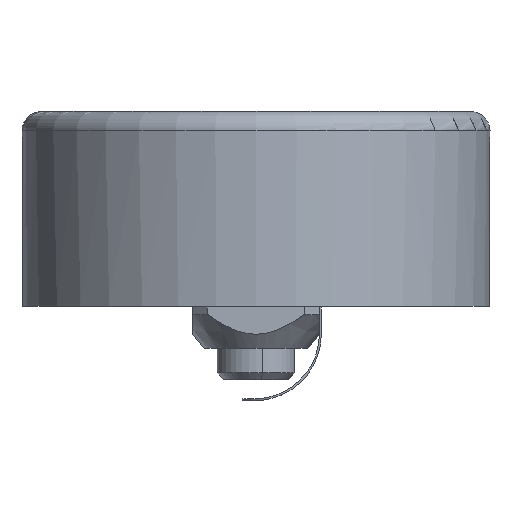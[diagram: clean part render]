
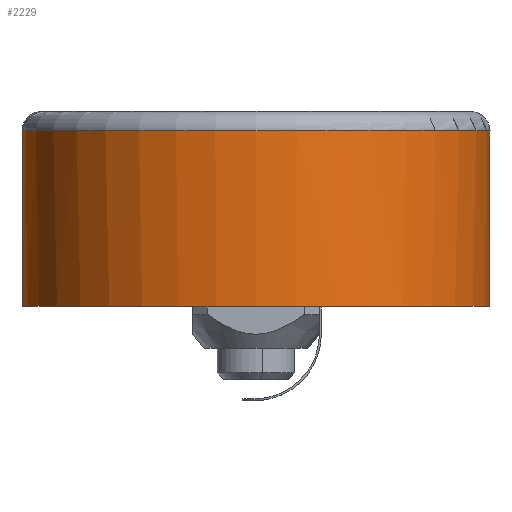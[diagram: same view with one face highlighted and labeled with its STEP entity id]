
A CAD part, left-side view. The second image highlights one B-rep face of the part: STEP entity #2229.
In plain terms, the highlighted cylindrical face has radius 24 mm (diameter 48 mm), a partial arc.
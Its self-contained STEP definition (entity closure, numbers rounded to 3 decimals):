
#106 = CARTESIAN_POINT ( 'NONE',  ( 24., 0., -5.5 ) ) ;
#149 = ORIENTED_EDGE ( 'NONE', *, *, #3899, .T. ) ;
#190 = CARTESIAN_POINT ( 'NONE',  ( 24., 0., -13. ) ) ;
#214 = CARTESIAN_POINT ( 'NONE',  ( 26.994, -23.813, -4.131 ) ) ;
#428 = CARTESIAN_POINT ( 'NONE',  ( 26.994, 23.813, -13. ) ) ;
#524 = CARTESIAN_POINT ( 'NONE',  ( 27.998, 23.67, -3.735 ) ) ;
#538 = CARTESIAN_POINT ( 'NONE',  ( 32.95, -22.269, -2.013 ) ) ;
#723 = DIRECTION ( 'NONE',  ( 0., 0., -1. ) ) ;
#728 = ORIENTED_EDGE ( 'NONE', *, *, #3472, .T. ) ;
#915 = ORIENTED_EDGE ( 'NONE', *, *, #1356, .T. ) ;
#1045 =( BOUNDED_CURVE ( )  B_SPLINE_CURVE ( 3, ( #5408, #4322, #5470, #3824 ),
 .UNSPECIFIED., .F., .T. ) 
 B_SPLINE_CURVE_WITH_KNOTS ( ( 4, 4 ),
 ( 2.092, 2.759 ),
 .UNSPECIFIED. ) 
 CURVE ( )  GEOMETRIC_REPRESENTATION_ITEM ( )  RATIONAL_B_SPLINE_CURVE ( ( 1., 0.963, 0.963, 1. ) ) 
 REPRESENTATION_ITEM ( '' )  );
#1128 =( BOUNDED_CURVE ( )  B_SPLINE_CURVE ( 3, ( #4393, #4964, #3276, #6743 ),
 .UNSPECIFIED., .F., .F. ) 
 B_SPLINE_CURVE_WITH_KNOTS ( ( 4, 4 ),
 ( 3.524, 4.191 ),
 .UNSPECIFIED. ) 
 CURVE ( )  GEOMETRIC_REPRESENTATION_ITEM ( )  RATIONAL_B_SPLINE_CURVE ( ( 1., 0.963, 0.963, 1. ) ) 
 REPRESENTATION_ITEM ( '' )  );
#1211 = VERTEX_POINT ( 'NONE', #3411 ) ;
#1321 = VERTEX_POINT ( 'NONE', #6184 ) ;
#1356 = EDGE_CURVE ( 'NONE', #5316, #5027, #1980, .T. ) ;
#1378 = VECTOR ( 'NONE', #3068, 1000. ) ;
#1465 = VECTOR ( 'NONE', #5378, 1000. ) ;
#1470 = ORIENTED_EDGE ( 'NONE', *, *, #1489, .F. ) ;
#1478 = DIRECTION ( 'NONE',  ( 1., 0., 0. ) ) ;
#1489 = EDGE_CURVE ( 'NONE', #5316, #4776, #1045, .T. ) ;
#1602 = CARTESIAN_POINT ( 'NONE',  ( 26.994, -23.813, -13. ) ) ;
#1703 = CARTESIAN_POINT ( 'NONE',  ( 26.994, 23.813, -4.131 ) ) ;
#1722 = FACE_OUTER_BOUND ( 'NONE', #5422, .T. ) ;
#1907 = ORIENTED_EDGE ( 'NONE', *, *, #4047, .F. ) ;
#1980 = CIRCLE ( 'NONE', #5720, 24. ) ;
#2010 = B_SPLINE_CURVE_WITH_KNOTS ( 'NONE', 3,
 ( #2886, #3868, #6183, #5083, #7189, #5658 ),
 .UNSPECIFIED., .F., .F.,
 ( 4, 2, 4 ),
 ( 0., 0.003, 0.006 ),
 .UNSPECIFIED. ) ;
#2208 = CARTESIAN_POINT ( 'NONE',  ( 31.968, 22.663, -2.281 ) ) ;
#2229 = ADVANCED_FACE ( 'NONE', ( #1722 ), #5694, .T. ) ;
#2716 = EDGE_CURVE ( 'NONE', #4447, #5411, #3586, .T. ) ;
#2873 = CARTESIAN_POINT ( 'NONE',  ( 32.95, 22.269, -2.013 ) ) ;
#2886 = CARTESIAN_POINT ( 'NONE',  ( 26.994, -23.813, -4.131 ) ) ;
#3066 = CARTESIAN_POINT ( 'NONE',  ( 44.817, -11.944, 5. ) ) ;
#3068 = DIRECTION ( 'NONE',  ( 0., 0., 1. ) ) ;
#3148 = CARTESIAN_POINT ( 'NONE',  ( 26.994, 23.813, -5.5 ) ) ;
#3276 = CARTESIAN_POINT ( 'NONE',  ( 42.107, 16.666, 1.793 ) ) ;
#3341 = CARTESIAN_POINT ( 'NONE',  ( 27.496, 23.749, -3.933 ) ) ;
#3411 = CARTESIAN_POINT ( 'NONE',  ( 32.95, 22.269, -2.013 ) ) ;
#3466 = DIRECTION ( 'NONE',  ( 1., 0., 0. ) ) ;
#3472 = EDGE_CURVE ( 'NONE', #1211, #1321, #6099, .T. ) ;
#3492 = ORIENTED_EDGE ( 'NONE', *, *, #6923, .T. ) ;
#3498 = CARTESIAN_POINT ( 'NONE',  ( 26.994, -23.813, -5.5 ) ) ;
#3549 = DIRECTION ( 'NONE',  ( 1., 0., 0. ) ) ;
#3586 = CIRCLE ( 'NONE', #6387, 24. ) ;
#3824 = CARTESIAN_POINT ( 'NONE',  ( 32.95, -22.269, -2.013 ) ) ;
#3859 = EDGE_CURVE ( 'NONE', #3884, #4776, #2010, .T. ) ;
#3868 = CARTESIAN_POINT ( 'NONE',  ( 27.999, -23.686, -3.734 ) ) ;
#3884 = VERTEX_POINT ( 'NONE', #214 ) ;
#3899 = EDGE_CURVE ( 'NONE', #4447, #3884, #6312, .T. ) ;
#4047 = EDGE_CURVE ( 'NONE', #1211, #5027, #1128, .T. ) ;
#4206 = AXIS2_PLACEMENT_3D ( 'NONE', #106, #5765, #3466 ) ;
#4322 = CARTESIAN_POINT ( 'NONE',  ( 42.107, -16.666, 1.793 ) ) ;
#4393 = CARTESIAN_POINT ( 'NONE',  ( 32.95, 22.269, -2.013 ) ) ;
#4447 = VERTEX_POINT ( 'NONE', #1602 ) ;
#4588 = ORIENTED_EDGE ( 'NONE', *, *, #2716, .F. ) ;
#4672 = DIRECTION ( 'NONE',  ( 0., 0., -1. ) ) ;
#4776 = VERTEX_POINT ( 'NONE', #538 ) ;
#4959 = CARTESIAN_POINT ( 'NONE',  ( 29.497, 23.368, -3.158 ) ) ;
#4964 = CARTESIAN_POINT ( 'NONE',  ( 38.001, 20.239, -0.634 ) ) ;
#5027 = VERTEX_POINT ( 'NONE', #6129 ) ;
#5034 = CARTESIAN_POINT ( 'NONE',  ( 28.998, 23.479, -3.348 ) ) ;
#5083 = CARTESIAN_POINT ( 'NONE',  ( 30.986, -22.984, -2.614 ) ) ;
#5316 = VERTEX_POINT ( 'NONE', #3066 ) ;
#5378 = DIRECTION ( 'NONE',  ( 0., 0., -1. ) ) ;
#5408 = CARTESIAN_POINT ( 'NONE',  ( 44.817, -11.944, 5. ) ) ;
#5411 = VERTEX_POINT ( 'NONE', #428 ) ;
#5422 = EDGE_LOOP ( 'NONE', ( #4588, #149, #6512, #1470, #915, #1907, #728, #3492 ) ) ;
#5470 = CARTESIAN_POINT ( 'NONE',  ( 38.001, -20.239, -0.634 ) ) ;
#5658 = CARTESIAN_POINT ( 'NONE',  ( 32.95, -22.269, -2.013 ) ) ;
#5694 = CYLINDRICAL_SURFACE ( 'NONE', #4206, 24. ) ;
#5720 = AXIS2_PLACEMENT_3D ( 'NONE', #6970, #4672, #1478 ) ;
#5765 = DIRECTION ( 'NONE',  ( 0., 0., 1. ) ) ;
#5968 = LINE ( 'NONE', #3148, #1465 ) ;
#6087 = CARTESIAN_POINT ( 'NONE',  ( 30.986, 22.984, -2.614 ) ) ;
#6099 = B_SPLINE_CURVE_WITH_KNOTS ( 'NONE', 3,
 ( #2873, #2208, #6087, #4959, #5034, #524, #3341, #1703 ),
 .UNSPECIFIED., .F., .F.,
 ( 4, 2, 2, 4 ),
 ( 0., 0.003, 0.005, 0.007 ),
 .UNSPECIFIED. ) ;
#6129 = CARTESIAN_POINT ( 'NONE',  ( 44.817, 11.944, 5. ) ) ;
#6183 = CARTESIAN_POINT ( 'NONE',  ( 29., -23.496, -3.34 ) ) ;
#6184 = CARTESIAN_POINT ( 'NONE',  ( 26.994, 23.813, -4.131 ) ) ;
#6312 = LINE ( 'NONE', #3498, #1378 ) ;
#6387 = AXIS2_PLACEMENT_3D ( 'NONE', #190, #723, #3549 ) ;
#6512 = ORIENTED_EDGE ( 'NONE', *, *, #3859, .T. ) ;
#6743 = CARTESIAN_POINT ( 'NONE',  ( 44.817, 11.944, 5. ) ) ;
#6923 = EDGE_CURVE ( 'NONE', #1321, #5411, #5968, .T. ) ;
#6970 = CARTESIAN_POINT ( 'NONE',  ( 24., 0., 5. ) ) ;
#7189 = CARTESIAN_POINT ( 'NONE',  ( 31.969, -22.663, -2.281 ) ) ;
